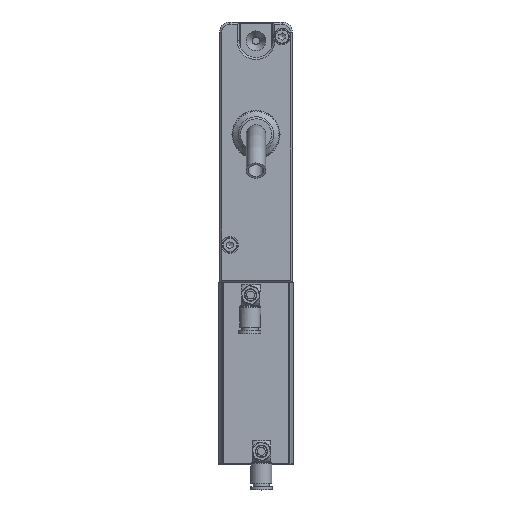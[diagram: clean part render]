
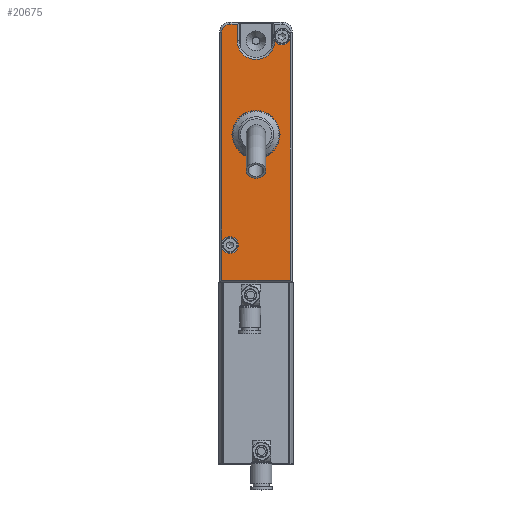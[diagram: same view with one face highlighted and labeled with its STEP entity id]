
A CAD part, top view. The second image highlights one B-rep face of the part: STEP entity #20675.
In plain terms, the highlighted planar face has unit normal (0, 0, 1).
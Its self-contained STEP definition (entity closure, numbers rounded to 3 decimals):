
#891=FACE_BOUND('',#3790,.T.);
#1464=CIRCLE('',#22348,9.);
#1467=CIRCLE('',#22353,4.);
#1469=CIRCLE('',#22358,4.);
#1470=CIRCLE('',#22359,4.);
#1471=CIRCLE('',#22360,4.);
#1472=CIRCLE('',#22361,4.);
#1473=CIRCLE('',#22362,8.459);
#2580=FACE_OUTER_BOUND('',#3789,.T.);
#3789=EDGE_LOOP('',(#16008,#16009,#16010,#16011,#16012,#16013,#16014,#16015,
#16016,#16017,#16018,#16019,#16020));
#3790=EDGE_LOOP('',(#16021));
#5235=LINE('',#33534,#6894);
#5241=LINE('',#33548,#6900);
#5245=LINE('',#33558,#6904);
#5251=LINE('',#33573,#6910);
#5254=LINE('',#33582,#6913);
#5257=LINE('',#33592,#6916);
#5258=LINE('',#33593,#6917);
#6894=VECTOR('',#26488,10.);
#6900=VECTOR('',#26498,10.);
#6904=VECTOR('',#26504,10.);
#6910=VECTOR('',#26520,10.);
#6913=VECTOR('',#26531,10.);
#6916=VECTOR('',#26542,10.);
#6917=VECTOR('',#26543,10.);
#8754=VERTEX_POINT('',#33531);
#8755=VERTEX_POINT('',#33533);
#8756=VERTEX_POINT('',#33537);
#8761=VERTEX_POINT('',#33546);
#8765=VERTEX_POINT('',#33555);
#8766=VERTEX_POINT('',#33557);
#8770=VERTEX_POINT('',#33572);
#8772=VERTEX_POINT('',#33577);
#8774=VERTEX_POINT('',#33587);
#8775=VERTEX_POINT('',#33591);
#8776=VERTEX_POINT('',#33598);
#8777=VERTEX_POINT('',#33601);
#8778=VERTEX_POINT('',#33604);
#11292=EDGE_CURVE('',#8754,#8755,#5235,.T.);
#11299=EDGE_CURVE('',#8761,#8756,#5241,.T.);
#11303=EDGE_CURVE('',#8765,#8766,#5245,.T.);
#11311=EDGE_CURVE('',#8766,#8770,#5251,.T.);
#11314=EDGE_CURVE('',#8772,#8761,#1464,.T.);
#11316=EDGE_CURVE('',#8755,#8772,#5254,.T.);
#11320=EDGE_CURVE('',#8774,#8754,#1467,.T.);
#11321=EDGE_CURVE('',#8770,#8775,#5257,.T.);
#11322=EDGE_CURVE('',#8775,#8774,#5258,.T.);
#11325=EDGE_CURVE('',#8775,#8776,#1469,.T.);
#11326=EDGE_CURVE('',#8776,#8775,#1470,.T.);
#11327=EDGE_CURVE('',#8765,#8777,#1471,.T.);
#11328=EDGE_CURVE('',#8777,#8756,#1472,.T.);
#11329=EDGE_CURVE('',#8778,#8778,#1473,.T.);
#16008=ORIENTED_EDGE('',*,*,#11299,.F.);
#16009=ORIENTED_EDGE('',*,*,#11314,.F.);
#16010=ORIENTED_EDGE('',*,*,#11316,.F.);
#16011=ORIENTED_EDGE('',*,*,#11292,.F.);
#16012=ORIENTED_EDGE('',*,*,#11320,.F.);
#16013=ORIENTED_EDGE('',*,*,#11322,.F.);
#16014=ORIENTED_EDGE('',*,*,#11325,.T.);
#16015=ORIENTED_EDGE('',*,*,#11326,.T.);
#16016=ORIENTED_EDGE('',*,*,#11321,.F.);
#16017=ORIENTED_EDGE('',*,*,#11311,.F.);
#16018=ORIENTED_EDGE('',*,*,#11303,.F.);
#16019=ORIENTED_EDGE('',*,*,#11327,.T.);
#16020=ORIENTED_EDGE('',*,*,#11328,.T.);
#16021=ORIENTED_EDGE('',*,*,#11329,.F.);
#18727=PLANE('',#22357);
#20675=ADVANCED_FACE('',(#2580,#891),#18727,.T.);
#22348=AXIS2_PLACEMENT_3D('',#33579,#26525,#26526);
#22353=AXIS2_PLACEMENT_3D('',#33589,#26538,#26539);
#22357=AXIS2_PLACEMENT_3D('',#33597,#26549,#26550);
#22358=AXIS2_PLACEMENT_3D('',#33599,#26551,#26552);
#22359=AXIS2_PLACEMENT_3D('',#33600,#26553,#26554);
#22360=AXIS2_PLACEMENT_3D('',#33602,#26555,#26556);
#22361=AXIS2_PLACEMENT_3D('',#33603,#26557,#26558);
#22362=AXIS2_PLACEMENT_3D('',#33605,#26559,#26560);
#26488=DIRECTION('',(1.,0.,0.));
#26498=DIRECTION('',(0.,1.,0.));
#26504=DIRECTION('',(0.,-1.,0.));
#26520=DIRECTION('',(-1.,0.,0.));
#26525=DIRECTION('center_axis',(0.,0.,
1.));
#26526=DIRECTION('ref_axis',(-1.,0.,0.));
#26531=DIRECTION('',(0.,-1.,0.));
#26538=DIRECTION('center_axis',(0.,0.,
-1.));
#26539=DIRECTION('ref_axis',(-0.707,0.707,0.));
#26542=DIRECTION('',(0.,1.,0.));
#26543=DIRECTION('',(0.,1.,0.));
#26549=DIRECTION('center_axis',(0.,0.,
1.));
#26550=DIRECTION('ref_axis',(0.,1.,0.));
#26551=DIRECTION('center_axis',(0.,0.,
-1.));
#26552=DIRECTION('ref_axis',(0.,1.,0.));
#26553=DIRECTION('center_axis',(0.,0.,
-1.));
#26554=DIRECTION('ref_axis',(0.,1.,0.));
#26555=DIRECTION('center_axis',(0.,0.,
-1.));
#26556=DIRECTION('ref_axis',(0.,1.,0.));
#26557=DIRECTION('center_axis',(0.,0.,
-1.));
#26558=DIRECTION('ref_axis',(0.,1.,0.));
#26559=DIRECTION('center_axis',(0.,0.,
1.));
#26560=DIRECTION('ref_axis',(0.,-1.,0.));
#33531=CARTESIAN_POINT('',(-12.5,61.5,45.));
#33533=CARTESIAN_POINT('',(-9.,61.5,45.));
#33534=CARTESIAN_POINT('',(8.75,61.5,45.));
#33537=CARTESIAN_POINT('',(9.,53.564,45.));
#33546=CARTESIAN_POINT('',(9.,53.5,45.));
#33548=CARTESIAN_POINT('',(9.,31.25,45.));
#33555=CARTESIAN_POINT('',(16.5,55.5,45.));
#33557=CARTESIAN_POINT('',(16.5,-61.5,45.));
#33558=CARTESIAN_POINT('',(16.5,-31.25,45.));
#33572=CARTESIAN_POINT('',(-16.5,-61.5,45.));
#33573=CARTESIAN_POINT('',(-8.75,-61.5,45.));
#33577=CARTESIAN_POINT('',(-9.,53.5,45.));
#33579=CARTESIAN_POINT('Origin',(0.,53.5,
45.));
#33582=CARTESIAN_POINT('',(-9.,26.75,45.));
#33587=CARTESIAN_POINT('',(-16.5,57.5,45.));
#33589=CARTESIAN_POINT('Origin',(-12.5,57.5,45.));
#33591=CARTESIAN_POINT('',(-16.5,-44.5,45.));
#33592=CARTESIAN_POINT('',(-16.5,31.25,45.));
#33593=CARTESIAN_POINT('',(-16.5,31.25,45.));
#33597=CARTESIAN_POINT('Origin',(0.,0.,
45.));
#33598=CARTESIAN_POINT('',(-12.5,-48.5,45.));
#33599=CARTESIAN_POINT('Origin',(-12.5,-44.5,45.));
#33600=CARTESIAN_POINT('Origin',(-12.5,-44.5,45.));
#33601=CARTESIAN_POINT('',(12.5,51.5,45.));
#33602=CARTESIAN_POINT('Origin',(12.5,55.5,45.));
#33603=CARTESIAN_POINT('Origin',(12.5,55.5,45.));
#33604=CARTESIAN_POINT('',(0.,16.959,45.));
#33605=CARTESIAN_POINT('Origin',(0.,8.5,
45.));
